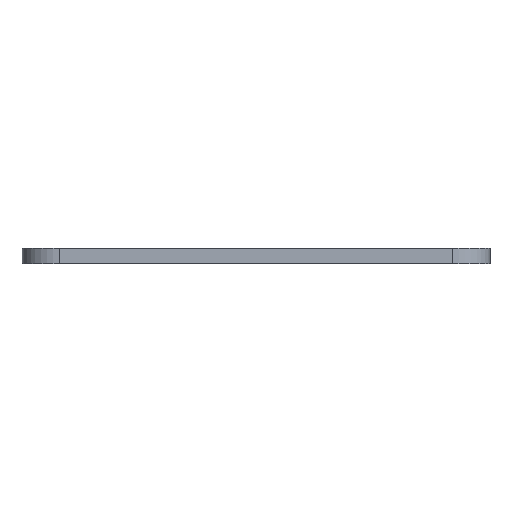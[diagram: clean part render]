
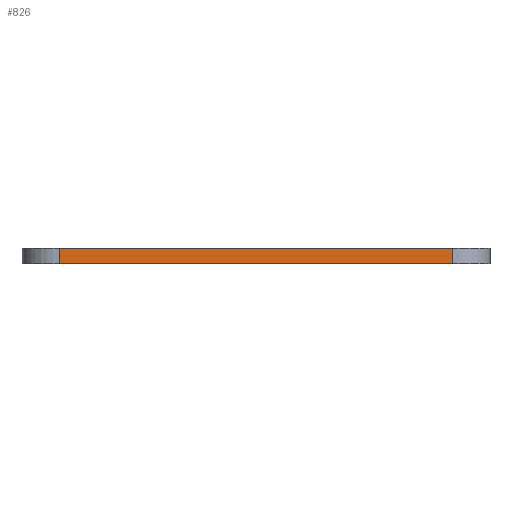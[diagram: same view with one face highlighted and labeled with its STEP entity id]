
A CAD part, front view. The second image highlights one B-rep face of the part: STEP entity #826.
In plain terms, the highlighted planar face has unit normal (0, -1, 0).
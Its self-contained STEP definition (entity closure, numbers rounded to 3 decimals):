
#44 = PLANE('',#45);
#45 = AXIS2_PLACEMENT_3D('',#46,#47,#48);
#46 = CARTESIAN_POINT('',(-75.,-72.,2.5));
#47 = DIRECTION('',(0.,0.,1.));
#48 = DIRECTION('',(1.,0.,0.));
#72 = CYLINDRICAL_SURFACE('',#73,12.);
#73 = AXIS2_PLACEMENT_3D('',#74,#75,#76);
#74 = CARTESIAN_POINT('',(-63.,-60.,-2.5));
#75 = DIRECTION('',(0.,0.,1.));
#76 = DIRECTION('',(-1.,-0.,0.));
#100 = PLANE('',#101);
#101 = AXIS2_PLACEMENT_3D('',#102,#103,#104);
#102 = CARTESIAN_POINT('',(-75.,-72.,-2.5));
#103 = DIRECTION('',(0.,0.,1.));
#104 = DIRECTION('',(1.,0.,0.));
#143 = VERTEX_POINT('',#144);
#144 = CARTESIAN_POINT('',(-63.,-72.,2.5));
#166 = EDGE_CURVE('',#143,#167,#169,.T.);
#167 = VERTEX_POINT('',#168);
#168 = CARTESIAN_POINT('',(63.,-72.,2.5));
#169 = SURFACE_CURVE('',#170,(#174,#181),.PCURVE_S1.);
#170 = LINE('',#171,#172);
#171 = CARTESIAN_POINT('',(-75.,-72.,2.5));
#172 = VECTOR('',#173,1.);
#173 = DIRECTION('',(1.,0.,0.));
#174 = PCURVE('',#44,#175);
#175 = DEFINITIONAL_REPRESENTATION('',(#176),#180);
#176 = LINE('',#177,#178);
#177 = CARTESIAN_POINT('',(0.,0.));
#178 = VECTOR('',#179,1.);
#179 = DIRECTION('',(1.,0.));
#180 = ( GEOMETRIC_REPRESENTATION_CONTEXT(2) 
PARAMETRIC_REPRESENTATION_CONTEXT() REPRESENTATION_CONTEXT('2D SPACE',''
  ) );
#181 = PCURVE('',#182,#187);
#182 = PLANE('',#183);
#183 = AXIS2_PLACEMENT_3D('',#184,#185,#186);
#184 = CARTESIAN_POINT('',(-75.,-72.,-2.5));
#185 = DIRECTION('',(0.,1.,0.));
#186 = DIRECTION('',(0.,0.,1.));
#187 = DEFINITIONAL_REPRESENTATION('',(#188),#192);
#188 = LINE('',#189,#190);
#189 = CARTESIAN_POINT('',(5.,0.));
#190 = VECTOR('',#191,1.);
#191 = DIRECTION('',(0.,1.));
#192 = ( GEOMETRIC_REPRESENTATION_CONTEXT(2) 
PARAMETRIC_REPRESENTATION_CONTEXT() REPRESENTATION_CONTEXT('2D SPACE',''
  ) );
#215 = CYLINDRICAL_SURFACE('',#216,12.);
#216 = AXIS2_PLACEMENT_3D('',#217,#218,#219);
#217 = CARTESIAN_POINT('',(63.,-60.,-2.5));
#218 = DIRECTION('',(0.,0.,1.));
#219 = DIRECTION('',(1.,0.,-0.));
#482 = VERTEX_POINT('',#483);
#483 = CARTESIAN_POINT('',(-63.,-72.,-2.5));
#505 = EDGE_CURVE('',#482,#143,#506,.T.);
#506 = SURFACE_CURVE('',#507,(#511,#518),.PCURVE_S1.);
#507 = LINE('',#508,#509);
#508 = CARTESIAN_POINT('',(-63.,-72.,-2.5));
#509 = VECTOR('',#510,1.);
#510 = DIRECTION('',(0.,0.,1.));
#511 = PCURVE('',#72,#512);
#512 = DEFINITIONAL_REPRESENTATION('',(#513),#517);
#513 = LINE('',#514,#515);
#514 = CARTESIAN_POINT('',(1.571,0.));
#515 = VECTOR('',#516,1.);
#516 = DIRECTION('',(0.,1.));
#517 = ( GEOMETRIC_REPRESENTATION_CONTEXT(2) 
PARAMETRIC_REPRESENTATION_CONTEXT() REPRESENTATION_CONTEXT('2D SPACE',''
  ) );
#518 = PCURVE('',#182,#519);
#519 = DEFINITIONAL_REPRESENTATION('',(#520),#524);
#520 = LINE('',#521,#522);
#521 = CARTESIAN_POINT('',(0.,12.));
#522 = VECTOR('',#523,1.);
#523 = DIRECTION('',(1.,0.));
#524 = ( GEOMETRIC_REPRESENTATION_CONTEXT(2) 
PARAMETRIC_REPRESENTATION_CONTEXT() REPRESENTATION_CONTEXT('2D SPACE',''
  ) );
#587 = EDGE_CURVE('',#482,#588,#590,.T.);
#588 = VERTEX_POINT('',#589);
#589 = CARTESIAN_POINT('',(63.,-72.,-2.5));
#590 = SURFACE_CURVE('',#591,(#595,#602),.PCURVE_S1.);
#591 = LINE('',#592,#593);
#592 = CARTESIAN_POINT('',(-75.,-72.,-2.5));
#593 = VECTOR('',#594,1.);
#594 = DIRECTION('',(1.,0.,0.));
#595 = PCURVE('',#100,#596);
#596 = DEFINITIONAL_REPRESENTATION('',(#597),#601);
#597 = LINE('',#598,#599);
#598 = CARTESIAN_POINT('',(0.,0.));
#599 = VECTOR('',#600,1.);
#600 = DIRECTION('',(1.,0.));
#601 = ( GEOMETRIC_REPRESENTATION_CONTEXT(2) 
PARAMETRIC_REPRESENTATION_CONTEXT() REPRESENTATION_CONTEXT('2D SPACE',''
  ) );
#602 = PCURVE('',#182,#603);
#603 = DEFINITIONAL_REPRESENTATION('',(#604),#608);
#604 = LINE('',#605,#606);
#605 = CARTESIAN_POINT('',(0.,0.));
#606 = VECTOR('',#607,1.);
#607 = DIRECTION('',(0.,1.));
#608 = ( GEOMETRIC_REPRESENTATION_CONTEXT(2) 
PARAMETRIC_REPRESENTATION_CONTEXT() REPRESENTATION_CONTEXT('2D SPACE',''
  ) );
#826 = ADVANCED_FACE('',(#827),#182,.F.);
#827 = FACE_BOUND('',#828,.F.);
#828 = EDGE_LOOP('',(#829,#830,#831,#832));
#829 = ORIENTED_EDGE('',*,*,#587,.F.);
#830 = ORIENTED_EDGE('',*,*,#505,.T.);
#831 = ORIENTED_EDGE('',*,*,#166,.T.);
#832 = ORIENTED_EDGE('',*,*,#833,.F.);
#833 = EDGE_CURVE('',#588,#167,#834,.T.);
#834 = SURFACE_CURVE('',#835,(#839,#846),.PCURVE_S1.);
#835 = LINE('',#836,#837);
#836 = CARTESIAN_POINT('',(63.,-72.,-2.5));
#837 = VECTOR('',#838,1.);
#838 = DIRECTION('',(0.,0.,1.));
#839 = PCURVE('',#182,#840);
#840 = DEFINITIONAL_REPRESENTATION('',(#841),#845);
#841 = LINE('',#842,#843);
#842 = CARTESIAN_POINT('',(0.,138.));
#843 = VECTOR('',#844,1.);
#844 = DIRECTION('',(1.,0.));
#845 = ( GEOMETRIC_REPRESENTATION_CONTEXT(2) 
PARAMETRIC_REPRESENTATION_CONTEXT() REPRESENTATION_CONTEXT('2D SPACE',''
  ) );
#846 = PCURVE('',#215,#847);
#847 = DEFINITIONAL_REPRESENTATION('',(#848),#852);
#848 = LINE('',#849,#850);
#849 = CARTESIAN_POINT('',(-1.571,0.));
#850 = VECTOR('',#851,1.);
#851 = DIRECTION('',(-0.,1.));
#852 = ( GEOMETRIC_REPRESENTATION_CONTEXT(2) 
PARAMETRIC_REPRESENTATION_CONTEXT() REPRESENTATION_CONTEXT('2D SPACE',''
  ) );
